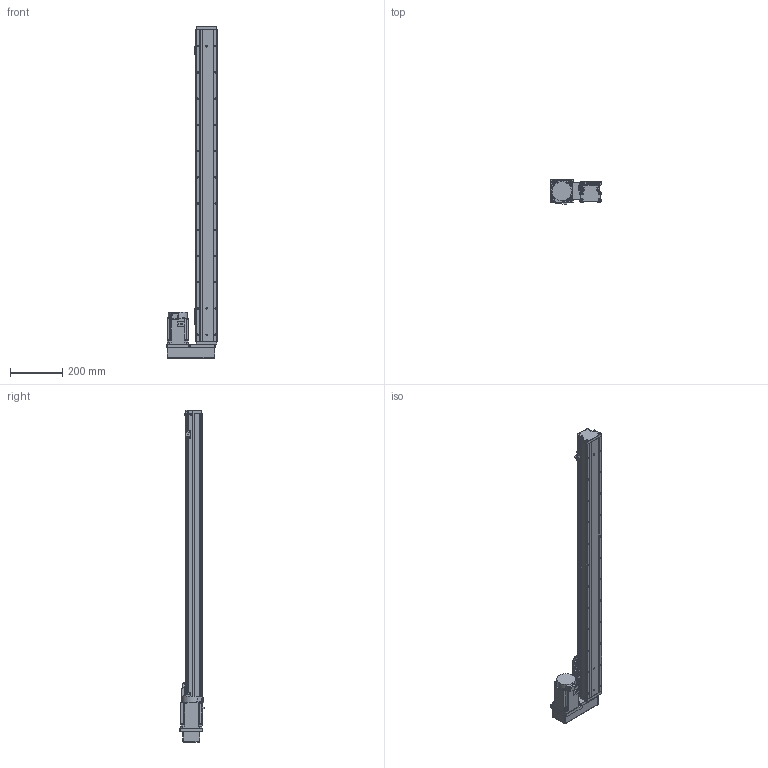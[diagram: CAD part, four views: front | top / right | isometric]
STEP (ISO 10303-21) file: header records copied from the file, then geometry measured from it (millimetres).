
FILE_DESCRIPTION (( 'STEP AP203' ), '1' );
FILE_NAME ('GTH8-1000-BL-M75-C4.step', '2023-02-14T02:23:00', ( '微软用户' ), ( '微软中国' ), 'SwSTEP 2.0', 'SolidWorks 2020', '' );
FILE_SCHEMA (( 'CONFIG_CONTROL_DESIGN' ));
Length unit declared in the file: millimetre
Products named in the file (18): GTH80-006; GTH50-024; GTH8-1000-BL-M75-C4; GTH80-013; GTH50-023; GBT 70.3-M3℅6; GBT96.1-2002 3×0.8; GTH80-022; BTH-M3X5X6; GTH80-001_1000; GBT 70.1-M3℅6; CTHA86-015-3_CTHA86-015-4; GTH80-003; GBT 70.1-M4×16; CTHA86-035; GTH80-004; GTH80-028; hg-kn73j_-s100
Assembly tree (57 placements, depth 2):
  GTH8-1000-BL-M75-C4
    GTH80-001_1000
    GTH80-003
    GTH80-004
    GTH80-006
    GTH80-013
    GBT 70.3-M3℅6  x4
    GTH80-022
    GBT 70.1-M3℅6  x14
    GBT 70.1-M4×16  x8
    GTH80-028  x2
    GTH50-024  x3
    GTH50-023  x3
    GBT96.1-2002 3×0.8  x6
    BTH-M3X5X6  x8
    CTHA86-015-3_CTHA86-015-4
    CTHA86-035
    hg-kn73j_-s100
Bounding box: 193.5 x 92.3 x 1266 mm (x, y, z)
Volume: 6696658.6 mm3; surface area: 639516.3 mm2
Topology: 59 solids, 59 shells, 2211 faces, 5142 edges, 3152 vertices
Faces by surface type: plane 1153, cylinder 643, cone 243, torus 158, sphere 12, bspline 2
Entity records: 40180 total; most frequent: CARTESIAN_POINT 6743, DIRECTION 6641, ORIENTED_EDGE 6094, EDGE_CURVE 3047, AXIS2_PLACEMENT_3D 2350, VECTOR 1941, LINE 1941, VERTEX_POINT 1927
